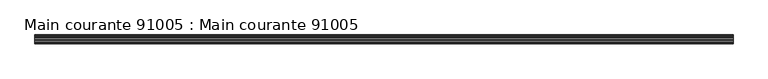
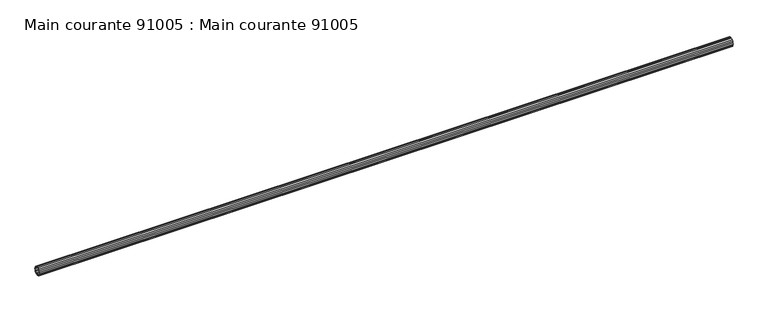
"""IFC4 building model written with IfcOpenShell, lengths in millimetres: beam geometry, Main courante 91005 : Main courante 91005."""

from ifc_helpers import new_model, si_unit, frame, origin, place, context, project, spatial, polyline, outline, extrude, source, transform, mapped, element, save


def main_courante_91005_main_courante_91005_c8c57120(model_context):
    return source(origin(), model_context, "Body", "SweptSolid", [
        extrude(outline(polyline([(-14149.8127604, 9262.9680149), (-14142.35, 9264.15), (-14134.8872396, 9262.9680149), (-14128.1549862, 9259.5377604), (-14122.8122396, 9254.1950138), (-14119.3819851, 9247.4627604), (-14118.2, 9240.0), (-14119.3819851, 9232.5372396), (-14122.8122396, 9225.8049862), (-14128.1549862, 9220.4622396), (-14134.8872396, 9217.0319851), (-14142.35, 9215.85), (-14149.8127604, 9217.0319851), (-14156.5450138, 9220.4622396), (-14161.8877604, 9225.8049862), (-14165.3180149, 9232.5372396), (-14166.5, 9240.0), (-14165.3180149, 9247.4627604), (-14161.8877604, 9254.1950138), (-14156.5450138, 9259.5377604), (-14149.8127604, 9262.9680149)]), holes=[polyline([(-14120.7, 9240.0), (-14121.7596264, 9246.6902179), (-14124.8347821, 9252.7255507), (-14129.6244493, 9257.5152179), (-14135.6597821, 9260.5903736), (-14142.35, 9261.65), (-14149.0402179, 9260.5903736), (-14155.0755507, 9257.5152179), (-14159.8652179, 9252.7255507), (-14162.9403736, 9246.6902179), (-14164.0, 9240.0), (-14162.9403736, 9233.3097821), (-14159.8652179, 9227.2744493), (-14155.0755507, 9222.4847821), (-14149.0402179, 9219.4096264), (-14142.35, 9218.35), (-14135.6597821, 9219.4096264), (-14129.6244493, 9222.4847821), (-14124.8347821, 9227.2744493), (-14121.7596264, 9233.3097821), (-14120.7, 9240.0)])]), frame((3742.4999999, 0.0, 0.0), z_axis=(1.0, 0.0, 0.0), x_axis=(0.0, 1.0, 0.0)), (0.0, 0.0, 1.0), 3832.5),
    ])


if __name__ == "__main__":
    model = new_model("IFC4")
    model_context = context("Model", 3, world=origin())
    ifc_project = project(units=[si_unit("LENGTHUNIT", "METRE", prefix="MILLI")], contexts=[model_context])
    site = spatial("IfcSite", under=ifc_project)
    building = spatial("IfcBuilding", under=site)
    placement = place(None, origin())
    main_courante_91005_main_courante_91005_shape = main_courante_91005_main_courante_91005_c8c57120(model_context)
    element("IfcBeam", 1, ObjectType="Main courante 91005 : Main courante 91005", at=placement, inside=building, context=model_context, shape_type="MappedRepresentation", body=[
        mapped(main_courante_91005_main_courante_91005_shape, transform((0.0, 0.0, 0.0), x_axis=(1.0, 0.0, 0.0), y_axis=(0.0, 1.0, 0.0), z_axis=(0.0, 0.0, 1.0))),
    ])
    save(model, "model.ifc")
